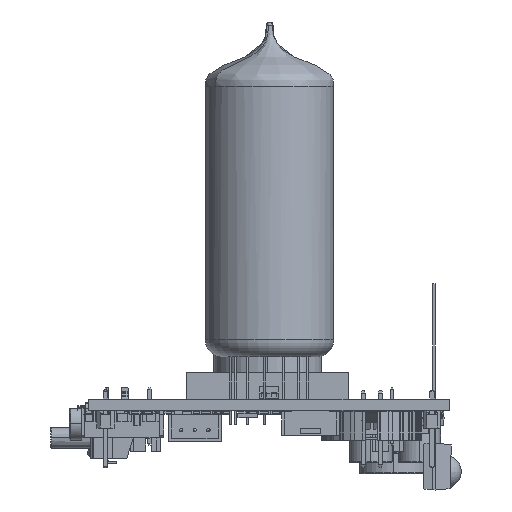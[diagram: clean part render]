
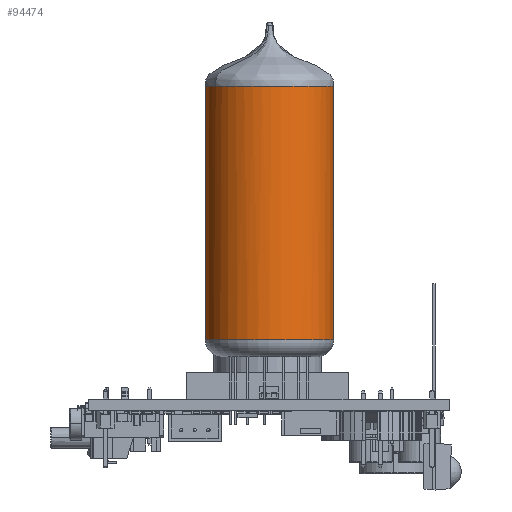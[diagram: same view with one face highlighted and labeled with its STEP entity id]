
A CAD part, left-side view. The second image highlights one B-rep face of the part: STEP entity #94474.
In plain terms, the highlighted cylindrical face has radius 9.5 mm (diameter 19 mm), a partial arc.
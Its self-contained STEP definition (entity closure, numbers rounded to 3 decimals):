
#94205 = EDGE_CURVE('',#94206,#94208,#94210,.T.);
#94206 = VERTEX_POINT('',#94207);
#94207 = CARTESIAN_POINT('',(17.025,36.055,
    46.309));
#94208 = VERTEX_POINT('',#94209);
#94209 = CARTESIAN_POINT('',(11.834,34.511,
    46.309));
#94210 = B_SPLINE_CURVE_WITH_KNOTS('',5,(#94211,#94212,#94213,#94214,
    #94215,#94216),.UNSPECIFIED.,.F.,.F.,(6,6),(0.409,0.5),
  .PIECEWISE_BEZIER_KNOTS.);
#94211 = CARTESIAN_POINT('',(17.025,36.055,
    46.309));
#94212 = CARTESIAN_POINT('',(15.955,36.056,
    46.309));
#94213 = CARTESIAN_POINT('',(14.879,35.907,
    46.309));
#94214 = CARTESIAN_POINT('',(13.819,35.603,
    46.309));
#94215 = CARTESIAN_POINT('',(12.796,35.139,
    46.309));
#94216 = CARTESIAN_POINT('',(11.834,34.511,
    46.309));
#94413 = VERTEX_POINT('',#94414);
#94414 = CARTESIAN_POINT('',(17.025,36.055,
    8.809));
#94422 = VERTEX_POINT('',#94423);
#94423 = CARTESIAN_POINT('',(17.025,17.055,
    8.809));
#94446 = VERTEX_POINT('',#94447);
#94447 = CARTESIAN_POINT('',(17.025,17.055,
    46.309));
#94456 = EDGE_CURVE('',#94446,#94422,#94457,.T.);
#94457 = LINE('',#94458,#94459);
#94458 = CARTESIAN_POINT('',(17.025,17.055,
    46.309));
#94459 = VECTOR('',#94460,1.);
#94460 = DIRECTION('',(0.,0.,-1.));
#94463 = EDGE_CURVE('',#94206,#94413,#94464,.T.);
#94464 = LINE('',#94465,#94466);
#94465 = CARTESIAN_POINT('',(17.025,36.055,
    46.309));
#94466 = VECTOR('',#94467,1.);
#94467 = DIRECTION('',(0.,0.,-1.));
#94474 = ADVANCED_FACE('',(#94475),#94502,.T.);
#94475 = FACE_BOUND('',#94476,.T.);
#94476 = EDGE_LOOP('',(#94477,#94478,#94493,#94494,#94495));
#94477 = ORIENTED_EDGE('',*,*,#94456,.F.);
#94478 = ORIENTED_EDGE('',*,*,#94479,.F.);
#94479 = EDGE_CURVE('',#94208,#94446,#94480,.T.);
#94480 = B_SPLINE_CURVE_WITH_KNOTS('',5,(#94481,#94482,#94483,#94484,
    #94485,#94486,#94487,#94488,#94489,#94490,#94491,#94492),
  .UNSPECIFIED.,.F.,.F.,(6,3,3,6),(0.5,0.75,0.781,0.909),
  .UNSPECIFIED.);
#94481 = CARTESIAN_POINT('',(11.834,34.511,
    46.309));
#94482 = CARTESIAN_POINT('',(9.199,32.793,
    46.309));
#94483 = CARTESIAN_POINT('',(7.51,30.166,
    46.309));
#94484 = CARTESIAN_POINT('',(6.862,27.084,
    46.309));
#94485 = CARTESIAN_POINT('',(7.41,23.613,
    46.309));
#94486 = CARTESIAN_POINT('',(9.517,20.712,
    46.309));
#94487 = CARTESIAN_POINT('',(9.755,20.421,
    46.309));
#94488 = CARTESIAN_POINT('',(11.049,18.976,
    46.309));
#94489 = CARTESIAN_POINT('',(12.64,17.927,
    46.309));
#94490 = CARTESIAN_POINT('',(14.05,17.352,
    46.309));
#94491 = CARTESIAN_POINT('',(15.531,17.057,
    46.309));
#94492 = CARTESIAN_POINT('',(17.025,17.055,
    46.309));
#94493 = ORIENTED_EDGE('',*,*,#94205,.F.);
#94494 = ORIENTED_EDGE('',*,*,#94463,.T.);
#94495 = ORIENTED_EDGE('',*,*,#94496,.T.);
#94496 = EDGE_CURVE('',#94413,#94422,#94497,.T.);
#94497 = CIRCLE('',#94498,9.5);
#94498 = AXIS2_PLACEMENT_3D('',#94499,#94500,#94501);
#94499 = CARTESIAN_POINT('',(17.025,26.555,
    8.809));
#94500 = DIRECTION('',(0.,0.,1.));
#94501 = DIRECTION('',(0.,-1.,0.));
#94502 = CYLINDRICAL_SURFACE('',#94503,9.5);
#94503 = AXIS2_PLACEMENT_3D('',#94504,#94505,#94506);
#94504 = CARTESIAN_POINT('',(17.025,26.555,
    46.309));
#94505 = DIRECTION('',(0.,0.,-1.));
#94506 = DIRECTION('',(0.,1.,0.));
